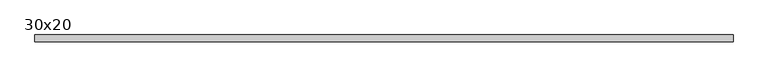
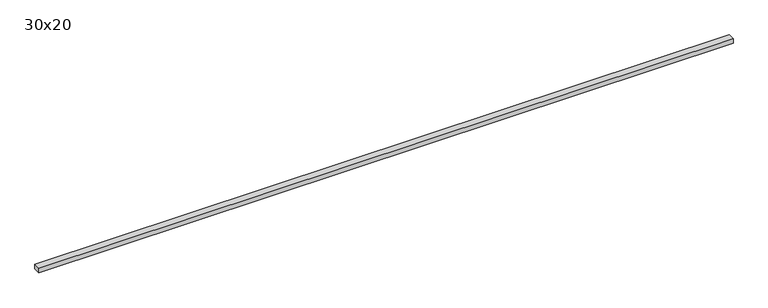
"""IFC4 building model written with IfcOpenShell, lengths in millimetres: beam geometry, Poutre - Bois d'oeuvre : 30x20."""

from ifc_helpers import new_model, si_unit, frame, origin, place, context, project, spatial, polyline, outline, extrude, source, transform, mapped, element, save


def beam_30x20_9d77b03e(model_context):
    return source(origin(), model_context, "Body", "SweptSolid", [
        extrude(outline(polyline([(1500.0, 15.0), (1500.0, -15.0), (-1500.0, -15.0), (-1500.0, 15.0), (1500.0, 15.0)])), frame((0.0, 0.0, -10.0), z_axis=(0.0, 0.0, 1.0), x_axis=(1.0, 0.0, 0.0)), (0.0, 0.0, 1.0), 20.0),
    ])


if __name__ == "__main__":
    model = new_model("IFC4")
    model_context = context("Model", 3, world=origin())
    ifc_project = project(units=[si_unit("LENGTHUNIT", "METRE", prefix="MILLI")], contexts=[model_context])
    site = spatial("IfcSite", under=ifc_project)
    building = spatial("IfcBuilding", under=site)
    placement = place(None, origin())
    beam_30x20_shape = beam_30x20_9d77b03e(model_context)
    element("IfcBeam", 1, ObjectType="Poutre - Bois d'oeuvre : 30x20", at=placement, inside=building, context=model_context, shape_type="MappedRepresentation", body=[
        mapped(beam_30x20_shape, transform((0.0, 0.0, 0.0), x_axis=(1.0, 0.0, 0.0), y_axis=(0.0, 1.0, 0.0), z_axis=(0.0, 0.0, 1.0))),
    ])
    save(model, "model.ifc")
